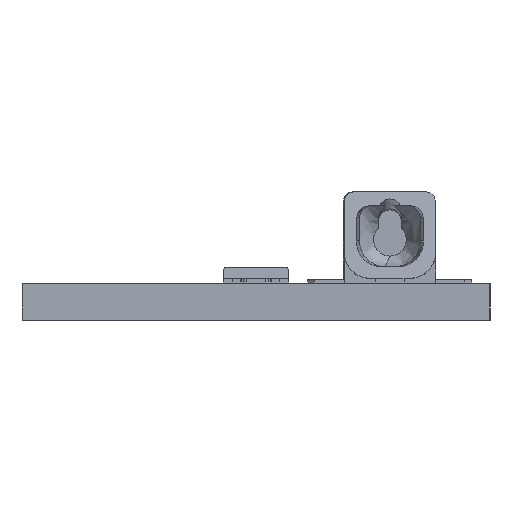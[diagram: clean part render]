
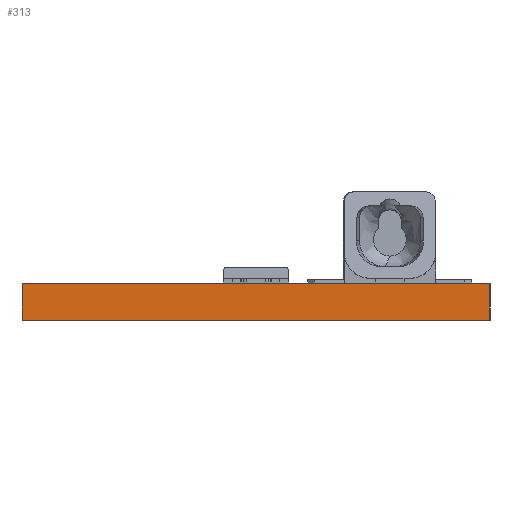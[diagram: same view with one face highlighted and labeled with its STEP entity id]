
A CAD part, left-side view. The second image highlights one B-rep face of the part: STEP entity #313.
In plain terms, the highlighted planar face has unit normal (-1, 0, 0).
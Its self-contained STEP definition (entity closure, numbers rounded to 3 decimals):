
#313 = ADVANCED_FACE('',(#314),#348,.F.);
#314 = FACE_BOUND('',#315,.F.);
#315 = EDGE_LOOP('',(#316,#326,#334,#342));
#316 = ORIENTED_EDGE('',*,*,#317,.T.);
#317 = EDGE_CURVE('',#318,#320,#322,.T.);
#318 = VERTEX_POINT('',#319);
#319 = CARTESIAN_POINT('',(0.,20.,0.));
#320 = VERTEX_POINT('',#321);
#321 = CARTESIAN_POINT('',(0.,20.,1.56));
#322 = LINE('',#323,#324);
#323 = CARTESIAN_POINT('',(0.,20.,0.));
#324 = VECTOR('',#325,1.);
#325 = DIRECTION('',(0.,0.,1.));
#326 = ORIENTED_EDGE('',*,*,#327,.T.);
#327 = EDGE_CURVE('',#320,#328,#330,.T.);
#328 = VERTEX_POINT('',#329);
#329 = CARTESIAN_POINT('',(0.,0.,1.56));
#330 = LINE('',#331,#332);
#331 = CARTESIAN_POINT('',(0.,20.,1.56));
#332 = VECTOR('',#333,1.);
#333 = DIRECTION('',(0.,-1.,0.));
#334 = ORIENTED_EDGE('',*,*,#335,.F.);
#335 = EDGE_CURVE('',#336,#328,#338,.T.);
#336 = VERTEX_POINT('',#337);
#337 = CARTESIAN_POINT('',(0.,0.,0.));
#338 = LINE('',#339,#340);
#339 = CARTESIAN_POINT('',(0.,0.,0.));
#340 = VECTOR('',#341,1.);
#341 = DIRECTION('',(0.,0.,1.));
#342 = ORIENTED_EDGE('',*,*,#343,.F.);
#343 = EDGE_CURVE('',#318,#336,#344,.T.);
#344 = LINE('',#345,#346);
#345 = CARTESIAN_POINT('',(0.,20.,0.));
#346 = VECTOR('',#347,1.);
#347 = DIRECTION('',(0.,-1.,0.));
#348 = PLANE('',#349);
#349 = AXIS2_PLACEMENT_3D('',#350,#351,#352);
#350 = CARTESIAN_POINT('',(0.,20.,0.));
#351 = DIRECTION('',(1.,0.,-0.));
#352 = DIRECTION('',(0.,-1.,0.));
